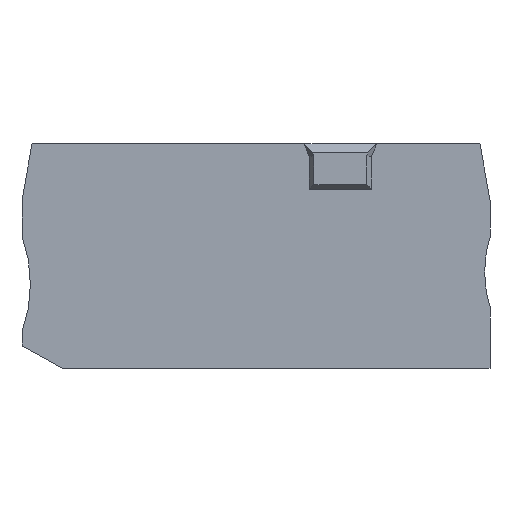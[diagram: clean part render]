
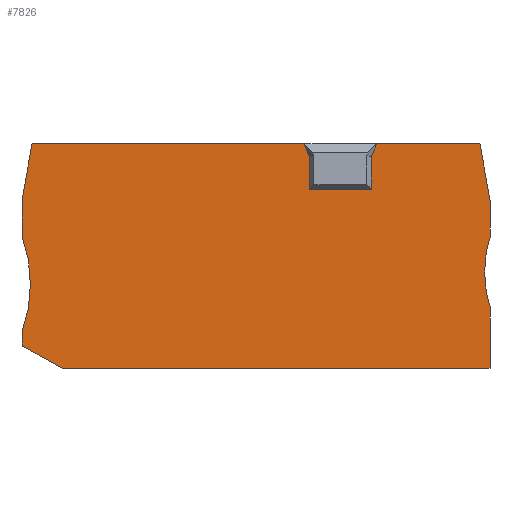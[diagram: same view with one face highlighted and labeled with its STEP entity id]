
A CAD part, left-side view. The second image highlights one B-rep face of the part: STEP entity #7826.
In plain terms, the highlighted planar face has unit normal (-1, 0, 0).
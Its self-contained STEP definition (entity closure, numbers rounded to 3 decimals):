
#7672=CARTESIAN_POINT('',(0.,24.4,29.1));
#7673=DIRECTION('',(1.,0.,0.));
#7674=DIRECTION('',(0.,1.,0.));
#7675=AXIS2_PLACEMENT_3D('',#7672,#7673,#7674);
#7676=PLANE('',#7675);
#7677=CARTESIAN_POINT('',(0.,60.6,17.08));
#7678=VERTEX_POINT('',#7677);
#7679=CARTESIAN_POINT('',(0.,60.6,4.72));
#7680=VERTEX_POINT('',#7679);
#7681=CARTESIAN_POINT('',(0.,77.564,10.9));
#7682=DIRECTION('',(1.,0.,0.));
#7683=DIRECTION('',(-0.,1.,0.));
#7684=AXIS2_PLACEMENT_3D('',#7681,#7682,#7683);
#7685=CIRCLE('',#7684,18.055);
#7686=EDGE_CURVE('',#7678,#7680,#7685,.T.);
#7687=ORIENTED_EDGE('',*,*,#7686,.T.);
#7688=CARTESIAN_POINT('',(0.,60.6,2.894));
#7689=VERTEX_POINT('',#7688);
#7690=CARTESIAN_POINT('',(0.,60.6,4.72));
#7691=DIRECTION('',(-0.,-0.,-1.));
#7692=VECTOR('',#7691,1.826);
#7693=LINE('',#7690,#7692);
#7694=EDGE_CURVE('',#7680,#7689,#7693,.T.);
#7695=ORIENTED_EDGE('',*,*,#7694,.T.);
#7696=CARTESIAN_POINT('',(0.,55.379,0.));
#7697=VERTEX_POINT('',#7696);
#7698=CARTESIAN_POINT('',(0.,60.6,2.894));
#7699=DIRECTION('',(0.,-0.875,-0.485));
#7700=VECTOR('',#7699,5.969);
#7701=LINE('',#7698,#7700);
#7702=EDGE_CURVE('',#7689,#7697,#7701,.T.);
#7703=ORIENTED_EDGE('',*,*,#7702,.T.);
#7704=CARTESIAN_POINT('',(0.,0.,0.));
#7705=VERTEX_POINT('',#7704);
#7706=CARTESIAN_POINT('',(0.,55.379,0.));
#7707=DIRECTION('',(0.,-1.,-0.));
#7708=VECTOR('',#7707,55.379);
#7709=LINE('',#7706,#7708);
#7710=EDGE_CURVE('',#7697,#7705,#7709,.T.);
#7711=ORIENTED_EDGE('',*,*,#7710,.T.);
#7712=CARTESIAN_POINT('',(0.,-0.,7.956));
#7713=VERTEX_POINT('',#7712);
#7714=CARTESIAN_POINT('',(0.,0.,0.));
#7715=DIRECTION('',(-0.,-0.,1.));
#7716=VECTOR('',#7715,7.956);
#7717=LINE('',#7714,#7716);
#7718=EDGE_CURVE('',#7705,#7713,#7717,.T.);
#7719=ORIENTED_EDGE('',*,*,#7718,.T.);
#7720=CARTESIAN_POINT('',(0.,0.681,12.475));
#7721=VERTEX_POINT('',#7720);
#7722=CARTESIAN_POINT('',(0.,-14.643,12.475));
#7723=DIRECTION('',(1.,0.,0.));
#7724=DIRECTION('',(-0.,1.,0.));
#7725=AXIS2_PLACEMENT_3D('',#7722,#7723,#7724);
#7726=CIRCLE('',#7725,15.324);
#7727=EDGE_CURVE('',#7713,#7721,#7726,.T.);
#7728=ORIENTED_EDGE('',*,*,#7727,.T.);
#7729=CARTESIAN_POINT('',(0.,-0.,16.993));
#7730=VERTEX_POINT('',#7729);
#7731=CARTESIAN_POINT('',(0.,-14.643,12.475));
#7732=DIRECTION('',(1.,0.,0.));
#7733=DIRECTION('',(-0.,1.,0.));
#7734=AXIS2_PLACEMENT_3D('',#7731,#7732,#7733);
#7735=CIRCLE('',#7734,15.324);
#7736=EDGE_CURVE('',#7721,#7730,#7735,.T.);
#7737=ORIENTED_EDGE('',*,*,#7736,.T.);
#7738=CARTESIAN_POINT('',(0.,0.,21.73));
#7739=VERTEX_POINT('',#7738);
#7740=CARTESIAN_POINT('',(0.,0.,16.993));
#7741=DIRECTION('',(-0.,-0.,1.));
#7742=VECTOR('',#7741,4.737);
#7743=LINE('',#7740,#7742);
#7744=EDGE_CURVE('',#7730,#7739,#7743,.T.);
#7745=ORIENTED_EDGE('',*,*,#7744,.T.);
#7746=CARTESIAN_POINT('',(0.,1.3,29.1));
#7747=VERTEX_POINT('',#7746);
#7748=CARTESIAN_POINT('',(0.,0.,21.73));
#7749=DIRECTION('',(0.,0.174,0.985));
#7750=VECTOR('',#7749,7.484);
#7751=LINE('',#7748,#7750);
#7752=EDGE_CURVE('',#7739,#7747,#7751,.T.);
#7753=ORIENTED_EDGE('',*,*,#7752,.T.);
#7754=CARTESIAN_POINT('',(0.,14.653,29.1));
#7755=VERTEX_POINT('',#7754);
#7756=CARTESIAN_POINT('',(0.,1.3,29.1));
#7757=DIRECTION('',(-0.,1.,0.));
#7758=VECTOR('',#7757,13.353);
#7759=LINE('',#7756,#7758);
#7760=EDGE_CURVE('',#7747,#7755,#7759,.T.);
#7761=ORIENTED_EDGE('',*,*,#7760,.T.);
#7762=CARTESIAN_POINT('',(0.,15.35,27.423));
#7763=VERTEX_POINT('',#7762);
#7764=CARTESIAN_POINT('',(0.,15.35,27.423));
#7765=DIRECTION('',(0.,-0.384,0.923));
#7766=VECTOR('',#7765,1.816);
#7767=LINE('',#7764,#7766);
#7768=EDGE_CURVE('',#7763,#7755,#7767,.T.);
#7769=ORIENTED_EDGE('',*,*,#7768,.F.);
#7770=CARTESIAN_POINT('',(0.,15.35,23.2));
#7771=VERTEX_POINT('',#7770);
#7772=CARTESIAN_POINT('',(0.,15.35,23.2));
#7773=DIRECTION('',(0.,0.,1.));
#7774=VECTOR('',#7773,4.223);
#7775=LINE('',#7772,#7774);
#7776=EDGE_CURVE('',#7771,#7763,#7775,.T.);
#7777=ORIENTED_EDGE('',*,*,#7776,.F.);
#7778=CARTESIAN_POINT('',(0.,23.4,23.2));
#7779=VERTEX_POINT('',#7778);
#7780=CARTESIAN_POINT('',(0.,23.4,23.2));
#7781=DIRECTION('',(0.,-1.,-0.));
#7782=VECTOR('',#7781,8.05);
#7783=LINE('',#7780,#7782);
#7784=EDGE_CURVE('',#7779,#7771,#7783,.T.);
#7785=ORIENTED_EDGE('',*,*,#7784,.F.);
#7786=CARTESIAN_POINT('',(0.,23.4,27.423));
#7787=VERTEX_POINT('',#7786);
#7788=CARTESIAN_POINT('',(0.,23.4,27.423));
#7789=DIRECTION('',(-0.,-0.,-1.));
#7790=VECTOR('',#7789,4.223);
#7791=LINE('',#7788,#7790);
#7792=EDGE_CURVE('',#7787,#7779,#7791,.T.);
#7793=ORIENTED_EDGE('',*,*,#7792,.F.);
#7794=CARTESIAN_POINT('',(0.,24.097,29.1));
#7795=VERTEX_POINT('',#7794);
#7796=CARTESIAN_POINT('',(0.,24.097,29.1));
#7797=DIRECTION('',(0.,-0.384,-0.923));
#7798=VECTOR('',#7797,1.816);
#7799=LINE('',#7796,#7798);
#7800=EDGE_CURVE('',#7795,#7787,#7799,.T.);
#7801=ORIENTED_EDGE('',*,*,#7800,.F.);
#7802=CARTESIAN_POINT('',(0.,59.3,29.1));
#7803=VERTEX_POINT('',#7802);
#7804=CARTESIAN_POINT('',(0.,24.097,29.1));
#7805=DIRECTION('',(-0.,1.,0.));
#7806=VECTOR('',#7805,35.203);
#7807=LINE('',#7804,#7806);
#7808=EDGE_CURVE('',#7795,#7803,#7807,.T.);
#7809=ORIENTED_EDGE('',*,*,#7808,.T.);
#7810=CARTESIAN_POINT('',(0.,60.6,21.727));
#7811=VERTEX_POINT('',#7810);
#7812=CARTESIAN_POINT('',(0.,59.3,29.1));
#7813=DIRECTION('',(0.,0.174,-0.985));
#7814=VECTOR('',#7813,7.486);
#7815=LINE('',#7812,#7814);
#7816=EDGE_CURVE('',#7803,#7811,#7815,.T.);
#7817=ORIENTED_EDGE('',*,*,#7816,.T.);
#7818=CARTESIAN_POINT('',(0.,60.6,21.727));
#7819=DIRECTION('',(-0.,0.,-1.));
#7820=VECTOR('',#7819,4.647);
#7821=LINE('',#7818,#7820);
#7822=EDGE_CURVE('',#7811,#7678,#7821,.T.);
#7823=ORIENTED_EDGE('',*,*,#7822,.T.);
#7824=EDGE_LOOP('',(#7687,#7695,#7703,#7711,#7719,#7728,#7737,#7745,#7753,#7761,#7769,#7777,#7785,#7793,#7801,#7809,#7817,#7823));
#7825=FACE_BOUND('',#7824,.T.);
#7826=ADVANCED_FACE('',(#7825),#7676,.F.);
